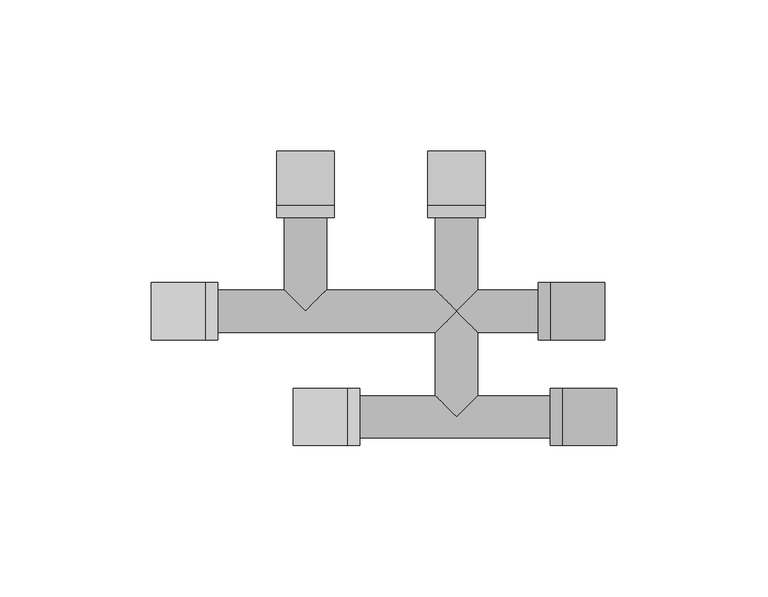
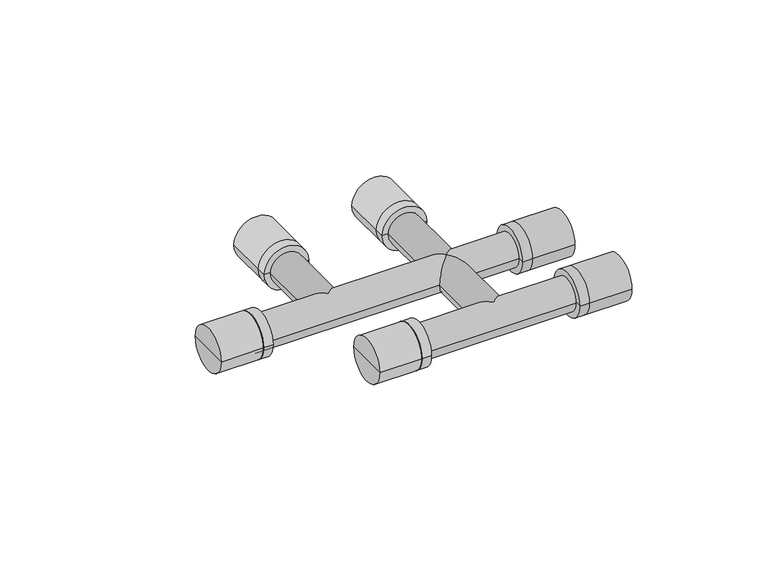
"""IFC4 building model written with IfcOpenShell, lengths in millimetres: pipe fitting geometry, KAN-therm Push trójnik mijankowy : KAN-therm Push trójnik mijankowy."""

from ifc_helpers import new_model, si_unit, frame, origin, place, context, project, spatial, circle_curve, ellipse_curve, source, transform, mapped, element, save
from ifc_brep_helpers import plane_surface, cylinder_surface, advanced_brep


def pipe_fitting_d9613d3d(model_context):
    return source(origin(), model_context, "Body", "AdvancedBrep", [
        advanced_brep(
        [(-83.0, 44.5, 0.0), (-83.0, 25.5, 0.0), (-83.0, 35.0, 0.0), (-79.0, 44.5, 0.0), (-79.0, 25.5, 0.0), (-79.0, 35.0, 0.0)],
        [
            (0, 1, circle_curve(frame((-83.0, 35.0, 0.0), z_axis=(-1.0, 0.0, 0.0), x_axis=(0.0, -1.0, 0.0)), 9.5)),
            (1, 2),
            (2, 0),
            (1, 0, circle_curve(frame((-83.0, 35.0, 0.0), z_axis=(-1.0, 0.0, 0.0), x_axis=(0.0, -1.0, 0.0)), 9.5)),
            (3, 4, circle_curve(frame((-79.0, 35.0, 0.0), z_axis=(-1.0, 0.0, 0.0), x_axis=(0.0, -1.0, 0.0)), 9.5)),
            (4, 1),
            (0, 3),
            (4, 3, circle_curve(frame((-79.0, 35.0, 0.0), z_axis=(-1.0, 0.0, 0.0), x_axis=(0.0, -1.0, 0.0)), 9.5)),
            (5, 4),
            (3, 5),
        ],
        [
            plane_surface(frame((-83.0, 35.0, 0.0), z_axis=(-1.0, 0.0, 0.0), x_axis=(0.0, -1.0, 0.0))),
            cylinder_surface(frame((-2078.0, 35.0, 0.0), z_axis=(1.0, 0.0, 0.0), x_axis=(0.0, -1.0, 0.0)), 9.5),
            plane_surface(frame((-79.0, 35.0, 0.0), z_axis=(1.0, 0.0, 0.0), x_axis=(0.0, -1.0, 0.0))),
        ],
        [
            (0, [[1, 2, 3]]),
            (0, [[4, -3, -2]]),
            (1, [[5, 6, -1, 7]]),
            (1, [[8, -7, -4, -6]]),
            (2, [[9, -5, 10]]),
            (2, [[-10, -8, -9]]),
        ],
    ),
        advanced_brep(
        [(-101.0, 44.5, 0.0), (-101.0, 25.5, 0.0), (-101.0, 35.0, 0.0), (-83.0, 44.5, 0.0), (-83.0, 25.5, 0.0), (-83.0, 35.0, 0.0)],
        [
            (0, 1, circle_curve(frame((-101.0, 35.0, 0.0), z_axis=(-1.0, 0.0, 0.0), x_axis=(0.0, -1.0, 0.0)), 9.5)),
            (1, 2),
            (2, 0),
            (1, 0, circle_curve(frame((-101.0, 35.0, 0.0), z_axis=(-1.0, 0.0, 0.0), x_axis=(0.0, -1.0, 0.0)), 9.5)),
            (3, 4, circle_curve(frame((-83.0, 35.0, 0.0), z_axis=(-1.0, 0.0, 0.0), x_axis=(0.0, -1.0, 0.0)), 9.5)),
            (4, 1),
            (0, 3),
            (4, 3, circle_curve(frame((-83.0, 35.0, 0.0), z_axis=(-1.0, 0.0, 0.0), x_axis=(0.0, -1.0, 0.0)), 9.5)),
            (5, 4),
            (3, 5),
        ],
        [
            plane_surface(frame((-101.0, 35.0, 0.0), z_axis=(-1.0, 0.0, 0.0), x_axis=(0.0, -1.0, 0.0))),
            cylinder_surface(frame((-2078.0, 35.0, 0.0), z_axis=(1.0, 0.0, 0.0), x_axis=(0.0, -1.0, 0.0)), 9.5),
            plane_surface(frame((-83.0, 35.0, 0.0), z_axis=(1.0, 0.0, 0.0), x_axis=(0.0, -1.0, 0.0))),
        ],
        [
            (0, [[1, 2, 3]]),
            (0, [[4, -3, -2]]),
            (1, [[5, 6, -1, 7]]),
            (1, [[8, -7, -4, -6]]),
            (2, [[9, -5, 10]]),
            (2, [[-10, -8, -9]]),
        ],
    ),
        advanced_brep(
        [(9.5, 70.0, 0.0), (-9.5, 70.0, 0.0), (0.0, 70.0, 0.0), (9.5, 66.0, 0.0), (-9.5, 66.0, 0.0), (0.0, 66.0, 0.0)],
        [
            (0, 1, circle_curve(frame((0.0, 70.0, 0.0), z_axis=(0.0, 1.0, 0.0), x_axis=(-1.0000000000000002, 0.0, 0.0)), 9.5)),
            (1, 2),
            (2, 0),
            (1, 0, circle_curve(frame((0.0, 70.0, 0.0), z_axis=(0.0, 1.0, 0.0), x_axis=(-1.0000000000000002, 0.0, 0.0)), 9.5)),
            (3, 4, circle_curve(frame((0.0, 66.0, 0.0), z_axis=(0.0, 1.0, 0.0), x_axis=(-1.0000000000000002, 0.0, 0.0)), 9.5)),
            (4, 1),
            (0, 3),
            (4, 3, circle_curve(frame((0.0, 66.0, 0.0), z_axis=(0.0, 1.0, 0.0), x_axis=(-1.0000000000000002, 0.0, 0.0)), 9.5)),
            (5, 4),
            (3, 5),
        ],
        [
            plane_surface(frame((0.0, 70.0, 0.0), z_axis=(0.0, 1.0, 0.0), x_axis=(-1.0, 0.0, 0.0))),
            cylinder_surface(frame((0.0, 2065.0, 0.0), z_axis=(0.0, -1.0000000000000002, 0.0), x_axis=(-1.0000000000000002, 0.0, 0.0)), 9.5),
            plane_surface(frame((0.0, 66.0, 0.0), z_axis=(0.0, -1.0, 0.0), x_axis=(-1.0, 0.0, 0.0))),
        ],
        [
            (0, [[1, 2, 3]]),
            (0, [[4, -3, -2]]),
            (1, [[5, 6, -1, 7]]),
            (1, [[8, -7, -4, -6]]),
            (2, [[9, -5, 10]]),
            (2, [[-10, -8, -9]]),
        ],
    ),
        advanced_brep(
        [(9.5, 88.0, 0.0), (-9.5, 88.0, 0.0), (0.0, 88.0, 0.0), (9.5, 70.0, 0.0), (-9.5, 70.0, 0.0), (0.0, 70.0, 0.0)],
        [
            (0, 1, circle_curve(frame((0.0, 88.0, 0.0), z_axis=(0.0, 1.0, 0.0), x_axis=(-1.0000000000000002, 0.0, 0.0)), 9.5)),
            (1, 2),
            (2, 0),
            (1, 0, circle_curve(frame((0.0, 88.0, 0.0), z_axis=(0.0, 1.0, 0.0), x_axis=(-1.0000000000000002, 0.0, 0.0)), 9.5)),
            (3, 4, circle_curve(frame((0.0, 70.0, 0.0), z_axis=(0.0, 1.0, 0.0), x_axis=(-1.0000000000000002, 0.0, 0.0)), 9.5)),
            (4, 1),
            (0, 3),
            (4, 3, circle_curve(frame((0.0, 70.0, 0.0), z_axis=(0.0, 1.0, 0.0), x_axis=(-1.0000000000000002, 0.0, 0.0)), 9.5)),
            (5, 4),
            (3, 5),
        ],
        [
            plane_surface(frame((0.0, 88.0, 0.0), z_axis=(0.0, 1.0, 0.0), x_axis=(-1.0, 0.0, 0.0))),
            cylinder_surface(frame((0.0, 2065.0, 0.0), z_axis=(0.0, -1.0000000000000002, 0.0), x_axis=(-1.0000000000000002, 0.0, 0.0)), 9.5),
            plane_surface(frame((0.0, 70.0, 0.0), z_axis=(0.0, -1.0, 0.0), x_axis=(-1.0, 0.0, 0.0))),
        ],
        [
            (0, [[1, 2, 3]]),
            (0, [[4, -3, -2]]),
            (1, [[5, 6, -1, 7]]),
            (1, [[8, -7, -4, -6]]),
            (2, [[9, -5, 10]]),
            (2, [[-10, -8, -9]]),
        ],
    ),
        advanced_brep(
        [(31.0, 25.5, 0.0), (31.0, 44.5, 0.0), (31.0, 35.0, 0.0), (27.0, 25.5, 0.0), (27.0, 44.5, 0.0), (27.0, 35.0, 0.0)],
        [
            (0, 1, circle_curve(frame((31.0, 35.0, 0.0), z_axis=(1.0, 0.0, 0.0), x_axis=(0.0, 1.0, 0.0)), 9.5)),
            (1, 2),
            (2, 0),
            (1, 0, circle_curve(frame((31.0, 35.0, 0.0), z_axis=(1.0, 0.0, 0.0), x_axis=(0.0, 1.0, 0.0)), 9.5)),
            (3, 4, circle_curve(frame((27.0, 35.0, 0.0), z_axis=(1.0, 0.0, 0.0), x_axis=(0.0, 1.0, 0.0)), 9.5)),
            (4, 1),
            (0, 3),
            (4, 3, circle_curve(frame((27.0, 35.0, 0.0), z_axis=(1.0, 0.0, 0.0), x_axis=(0.0, 1.0, 0.0)), 9.5)),
            (5, 4),
            (3, 5),
        ],
        [
            plane_surface(frame((31.0, 35.0, 0.0), z_axis=(1.0, 0.0, 0.0), x_axis=(0.0, 1.0, 0.0))),
            cylinder_surface(frame((2026.0, 35.0, 0.0), z_axis=(-1.0, 0.0, 0.0), x_axis=(0.0, 1.0, 0.0)), 9.5),
            plane_surface(frame((27.0, 35.0, 0.0), z_axis=(-1.0, 0.0, 0.0), x_axis=(0.0, 1.0, 0.0))),
        ],
        [
            (0, [[1, 2, 3]]),
            (0, [[4, -3, -2]]),
            (1, [[5, 6, -1, 7]]),
            (1, [[8, -7, -4, -6]]),
            (2, [[9, -5, 10]]),
            (2, [[-10, -8, -9]]),
        ],
    ),
        advanced_brep(
        [(49.0, 25.5, 0.0), (49.0, 44.5, 0.0), (49.0, 35.0, 0.0), (31.0, 25.5, 0.0), (31.0, 44.5, 0.0), (31.0, 35.0, 0.0)],
        [
            (0, 1, circle_curve(frame((49.0, 35.0, 0.0), z_axis=(1.0, 0.0, 0.0), x_axis=(0.0, 1.0, 0.0)), 9.5)),
            (1, 2),
            (2, 0),
            (1, 0, circle_curve(frame((49.0, 35.0, 0.0), z_axis=(1.0, 0.0, 0.0), x_axis=(0.0, 1.0, 0.0)), 9.5)),
            (3, 4, circle_curve(frame((31.0, 35.0, 0.0), z_axis=(1.0, 0.0, 0.0), x_axis=(0.0, 1.0, 0.0)), 9.5)),
            (4, 1),
            (0, 3),
            (4, 3, circle_curve(frame((31.0, 35.0, 0.0), z_axis=(1.0, 0.0, 0.0), x_axis=(0.0, 1.0, 0.0)), 9.5)),
            (5, 4),
            (3, 5),
        ],
        [
            plane_surface(frame((49.0, 35.0, 0.0), z_axis=(1.0, 0.0, 0.0), x_axis=(0.0, 1.0, 0.0))),
            cylinder_surface(frame((2026.0, 35.0, 0.0), z_axis=(-1.0, 0.0, 0.0), x_axis=(0.0, 1.0, 0.0)), 9.5),
            plane_surface(frame((31.0, 35.0, 0.0), z_axis=(-1.0, 0.0, 0.0), x_axis=(0.0, 1.0, 0.0))),
        ],
        [
            (0, [[1, 2, 3]]),
            (0, [[4, -3, -2]]),
            (1, [[5, 6, -1, 7]]),
            (1, [[8, -7, -4, -6]]),
            (2, [[9, -5, 10]]),
            (2, [[-10, -8, -9]]),
        ],
    ),
        advanced_brep(
        [(-40.5, 70.0, 0.0), (-59.5, 70.0, 0.0), (-50.0, 70.0, 0.0), (-40.5, 66.0, 0.0), (-59.5, 66.0, 0.0), (-50.0, 66.0, 0.0)],
        [
            (0, 1, circle_curve(frame((-50.0, 70.0, 0.0), z_axis=(0.0, 1.0, 0.0), x_axis=(-1.0000000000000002, 0.0, 0.0)), 9.5)),
            (1, 2),
            (2, 0),
            (1, 0, circle_curve(frame((-50.0, 70.0, 0.0), z_axis=(0.0, 1.0, 0.0), x_axis=(-1.0000000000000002, 0.0, 0.0)), 9.5)),
            (3, 4, circle_curve(frame((-50.0, 66.0, 0.0), z_axis=(0.0, 1.0, 0.0), x_axis=(-1.0000000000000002, 0.0, 0.0)), 9.5)),
            (4, 1),
            (0, 3),
            (4, 3, circle_curve(frame((-50.0, 66.0, 0.0), z_axis=(0.0, 1.0, 0.0), x_axis=(-1.0000000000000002, 0.0, 0.0)), 9.5)),
            (5, 4),
            (3, 5),
        ],
        [
            plane_surface(frame((-50.0, 70.0, 0.0), z_axis=(0.0, 1.0, 0.0), x_axis=(-1.0, 0.0, 0.0))),
            cylinder_surface(frame((-50.0, 2065.0, 0.0), z_axis=(0.0, -1.0000000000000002, 0.0), x_axis=(-1.0000000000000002, 0.0, 0.0)), 9.5),
            plane_surface(frame((-50.0, 66.0, 0.0), z_axis=(0.0, -1.0, 0.0), x_axis=(-1.0, 0.0, 0.0))),
        ],
        [
            (0, [[1, 2, 3]]),
            (0, [[4, -3, -2]]),
            (1, [[5, 6, -1, 7]]),
            (1, [[8, -7, -4, -6]]),
            (2, [[9, -5, 10]]),
            (2, [[-10, -8, -9]]),
        ],
    ),
        advanced_brep(
        [(-40.5, 88.0, 0.0), (-59.5, 88.0, 0.0), (-50.0, 88.0, 0.0), (-40.5, 70.0, 0.0), (-59.5, 70.0, 0.0), (-50.0, 70.0, 0.0)],
        [
            (0, 1, circle_curve(frame((-50.0, 88.0, 0.0), z_axis=(0.0, 1.0, 0.0), x_axis=(-1.0000000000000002, 0.0, 0.0)), 9.5)),
            (1, 2),
            (2, 0),
            (1, 0, circle_curve(frame((-50.0, 88.0, 0.0), z_axis=(0.0, 1.0, 0.0), x_axis=(-1.0000000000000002, 0.0, 0.0)), 9.5)),
            (3, 4, circle_curve(frame((-50.0, 70.0, 0.0), z_axis=(0.0, 1.0, 0.0), x_axis=(-1.0000000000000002, 0.0, 0.0)), 9.5)),
            (4, 1),
            (0, 3),
            (4, 3, circle_curve(frame((-50.0, 70.0, 0.0), z_axis=(0.0, 1.0, 0.0), x_axis=(-1.0000000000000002, 0.0, 0.0)), 9.5)),
            (5, 4),
            (3, 5),
        ],
        [
            plane_surface(frame((-50.0, 88.0, 0.0), z_axis=(0.0, 1.0, 0.0), x_axis=(-1.0, 0.0, 0.0))),
            cylinder_surface(frame((-50.0, 2065.0, 0.0), z_axis=(0.0, -1.0000000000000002, 0.0), x_axis=(-1.0000000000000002, 0.0, 0.0)), 9.5),
            plane_surface(frame((-50.0, 70.0, 0.0), z_axis=(0.0, -1.0, 0.0), x_axis=(-1.0, 0.0, 0.0))),
        ],
        [
            (0, [[1, 2, 3]]),
            (0, [[4, -3, -2]]),
            (1, [[5, 6, -1, 7]]),
            (1, [[8, -7, -4, -6]]),
            (2, [[9, -5, 10]]),
            (2, [[-10, -8, -9]]),
        ],
    ),
        advanced_brep(
        [(-36.0, 9.5, 0.0), (-36.0, -9.5, 0.0), (-36.0, 0.0, 0.0), (-32.0, 9.5, 0.0), (-32.0, -9.5, 0.0), (-32.0, 0.0, 0.0)],
        [
            (0, 1, circle_curve(frame((-36.0, 0.0, 0.0), z_axis=(-1.0, 0.0, 0.0), x_axis=(0.0, -1.0, 0.0)), 9.5)),
            (1, 2),
            (2, 0),
            (1, 0, circle_curve(frame((-36.0, 0.0, 0.0), z_axis=(-1.0, 0.0, 0.0), x_axis=(0.0, -1.0, 0.0)), 9.5)),
            (3, 4, circle_curve(frame((-32.0, 0.0, 0.0), z_axis=(-1.0, 0.0, 0.0), x_axis=(0.0, -1.0, 0.0)), 9.5)),
            (4, 1),
            (0, 3),
            (4, 3, circle_curve(frame((-32.0, 0.0, 0.0), z_axis=(-1.0, 0.0, 0.0), x_axis=(0.0, -1.0, 0.0)), 9.5)),
            (5, 4),
            (3, 5),
        ],
        [
            plane_surface(frame((-36.0, 0.0, 0.0), z_axis=(-1.0, 0.0, 0.0), x_axis=(0.0, -1.0, 0.0))),
            cylinder_surface(frame((-2031.0, 0.0, 0.0), z_axis=(1.0, 0.0, 0.0), x_axis=(0.0, -1.0, 0.0)), 9.5),
            plane_surface(frame((-32.0, 0.0, 0.0), z_axis=(1.0, 0.0, 0.0), x_axis=(0.0, -1.0, 0.0))),
        ],
        [
            (0, [[1, 2, 3]]),
            (0, [[4, -3, -2]]),
            (1, [[5, 6, -1, 7]]),
            (1, [[8, -7, -4, -6]]),
            (2, [[9, -5, 10]]),
            (2, [[-10, -8, -9]]),
        ],
    ),
        advanced_brep(
        [(-54.0, 9.5, 0.0), (-54.0, -9.5, 0.0), (-54.0, 0.0, 0.0), (-36.0, 9.5, 0.0), (-36.0, -9.5, 0.0), (-36.0, 0.0, 0.0)],
        [
            (0, 1, circle_curve(frame((-54.0, 0.0, 0.0), z_axis=(-1.0, 0.0, 0.0), x_axis=(0.0, -1.0, 0.0)), 9.5)),
            (1, 2),
            (2, 0),
            (1, 0, circle_curve(frame((-54.0, 0.0, 0.0), z_axis=(-1.0, 0.0, 0.0), x_axis=(0.0, -1.0, 0.0)), 9.5)),
            (3, 4, circle_curve(frame((-36.0, 0.0, 0.0), z_axis=(-1.0, 0.0, 0.0), x_axis=(0.0, -1.0, 0.0)), 9.5)),
            (4, 1),
            (0, 3),
            (4, 3, circle_curve(frame((-36.0, 0.0, 0.0), z_axis=(-1.0, 0.0, 0.0), x_axis=(0.0, -1.0, 0.0)), 9.5)),
            (5, 4),
            (3, 5),
        ],
        [
            plane_surface(frame((-54.0, 0.0, 0.0), z_axis=(-1.0, 0.0, 0.0), x_axis=(0.0, -1.0, 0.0))),
            cylinder_surface(frame((-2031.0, 0.0, 0.0), z_axis=(1.0, 0.0, 0.0), x_axis=(0.0, -1.0, 0.0)), 9.5),
            plane_surface(frame((-36.0, 0.0, 0.0), z_axis=(1.0, 0.0, 0.0), x_axis=(0.0, -1.0, 0.0))),
        ],
        [
            (0, [[1, 2, 3]]),
            (0, [[4, -3, -2]]),
            (1, [[5, 6, -1, 7]]),
            (1, [[8, -7, -4, -6]]),
            (2, [[9, -5, 10]]),
            (2, [[-10, -8, -9]]),
        ],
    ),
        advanced_brep(
        [(35.0, -9.5, 0.0), (35.0, 9.5, 0.0), (35.0, 0.0, 0.0), (31.0, -9.5, 0.0), (31.0, 9.5, 0.0), (31.0, 0.0, 0.0)],
        [
            (0, 1, circle_curve(frame((35.0, 0.0, 0.0), z_axis=(1.0, 0.0, 0.0), x_axis=(0.0, 1.0, 0.0)), 9.5)),
            (1, 2),
            (2, 0),
            (1, 0, circle_curve(frame((35.0, 0.0, 0.0), z_axis=(1.0, 0.0, 0.0), x_axis=(0.0, 1.0, 0.0)), 9.5)),
            (3, 4, circle_curve(frame((31.0, 0.0, 0.0), z_axis=(1.0, 0.0, 0.0), x_axis=(0.0, 1.0, 0.0)), 9.5)),
            (4, 1),
            (0, 3),
            (4, 3, circle_curve(frame((31.0, 0.0, 0.0), z_axis=(1.0, 0.0, 0.0), x_axis=(0.0, 1.0, 0.0)), 9.5)),
            (5, 4),
            (3, 5),
        ],
        [
            plane_surface(frame((35.0, 0.0, 0.0), z_axis=(1.0, 0.0, 0.0), x_axis=(0.0, 1.0, 0.0))),
            cylinder_surface(frame((2030.0, 0.0, 0.0), z_axis=(-1.0, 0.0, 0.0), x_axis=(0.0, 1.0, 0.0)), 9.5),
            plane_surface(frame((31.0, 0.0, 0.0), z_axis=(-1.0, 0.0, 0.0), x_axis=(0.0, 1.0, 0.0))),
        ],
        [
            (0, [[1, 2, 3]]),
            (0, [[4, -3, -2]]),
            (1, [[5, 6, -1, 7]]),
            (1, [[8, -7, -4, -6]]),
            (2, [[9, -5, 10]]),
            (2, [[-10, -8, -9]]),
        ],
    ),
        advanced_brep(
        [(53.0, -9.5, 0.0), (53.0, 9.5, 0.0), (53.0, 0.0, 0.0), (35.0, -9.5, 0.0), (35.0, 9.5, 0.0), (35.0, 0.0, 0.0)],
        [
            (0, 1, circle_curve(frame((53.0, 0.0, 0.0), z_axis=(1.0, 0.0, 0.0), x_axis=(0.0, 1.0, 0.0)), 9.5)),
            (1, 2),
            (2, 0),
            (1, 0, circle_curve(frame((53.0, 0.0, 0.0), z_axis=(1.0, 0.0, 0.0), x_axis=(0.0, 1.0, 0.0)), 9.5)),
            (3, 4, circle_curve(frame((35.0, 0.0, 0.0), z_axis=(1.0, 0.0, 0.0), x_axis=(0.0, 1.0, 0.0)), 9.5)),
            (4, 1),
            (0, 3),
            (4, 3, circle_curve(frame((35.0, 0.0, 0.0), z_axis=(1.0, 0.0, 0.0), x_axis=(0.0, 1.0, 0.0)), 9.5)),
            (5, 4),
            (3, 5),
        ],
        [
            plane_surface(frame((53.0, 0.0, 0.0), z_axis=(1.0, 0.0, 0.0), x_axis=(0.0, 1.0, 0.0))),
            cylinder_surface(frame((2030.0, 0.0, 0.0), z_axis=(-1.0, 0.0, 0.0), x_axis=(0.0, 1.0, 0.0)), 9.5),
            plane_surface(frame((35.0, 0.0, 0.0), z_axis=(-1.0, 0.0, 0.0), x_axis=(0.0, 1.0, 0.0))),
        ],
        [
            (0, [[1, 2, 3]]),
            (0, [[4, -3, -2]]),
            (1, [[5, 6, -1, 7]]),
            (1, [[8, -7, -4, -6]]),
            (2, [[9, -5, 10]]),
            (2, [[-10, -8, -9]]),
        ],
    ),
        advanced_brep(
        [(35.0, 28.0, 0.0), (35.0, 42.0, 0.0), (35.0, 35.0, 0.0), (7.0, 28.0, 0.0), (0.0, 35.0, -7.0), (7.0, 42.0, 0.0), (-83.0, 28.0, 0.0), (-83.0, 42.0, 0.0), (-57.0, 42.0, 0.0), (-50.0, 35.0, -7.0), (-43.0, 42.0, 0.0), (-7.0, 42.0, 0.0), (-7.0, 28.0, 0.0), (0.0, 35.0, 7.0), (-50.0, 35.0, 7.0), (-83.0, 35.0, 0.0), (-57.0, 70.0, 0.0), (-43.0, 70.0, 0.0), (-50.0, 70.0, 0.0), (35.0, -7.0, 0.0), (35.0, 7.0, 0.0), (35.0, 0.0, 0.0), (-36.0, -7.0, 0.0), (-36.0, 7.0, 0.0), (-7.0, 7.0, 0.0), (0.0, 0.0, -7.0), (7.0, 7.0, 0.0), (0.0, 0.0, 7.0), (-36.0, 0.0, 0.0), (-7.0, 70.0, 0.0), (7.0, 70.0, 0.0), (0.0, 70.0, 0.0)],
        [
            (0, 1, circle_curve(frame((35.0, 35.0, 0.0), z_axis=(1.0, 0.0, 0.0), x_axis=(0.0, 1.0, 0.0)), 7.0)),
            (1, 2),
            (2, 0),
            (1, 0, circle_curve(frame((35.0, 35.0, 0.0), z_axis=(1.0, 0.0, 0.0), x_axis=(0.0, 1.0, 0.0)), 7.0)),
            (0, 3),
            (3, 4, ellipse_curve(frame((0.0, 35.0, 0.0), z_axis=(0.7071067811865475, 0.7071067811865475, 0.0), x_axis=(-0.7071067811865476, 0.7071067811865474, 0.0)), 9.8994949, 7.0)),
            (4, 5, ellipse_curve(frame((0.0, 35.0, 0.0), z_axis=(0.7071067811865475, -0.7071067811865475, 0.0), x_axis=(-0.7071067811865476, -0.7071067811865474, 0.0)), 9.8994949, 7.0)),
            (5, 1),
            (6, 7, circle_curve(frame((-83.0, 35.0, 0.0), z_axis=(1.0, 0.0, 0.0), x_axis=(0.0, 1.0, 0.0)), 7.0)),
            (7, 8),
            (8, 9, ellipse_curve(frame((-50.0, 35.0, 0.0), z_axis=(-0.7071067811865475, -0.7071067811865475, 0.0), x_axis=(-0.7071067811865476, 0.7071067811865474, 0.0)), 9.8994949, 7.0)),
            (9, 10, ellipse_curve(frame((-50.0, 35.0, 0.0), z_axis=(0.7071067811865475, -0.7071067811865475, 0.0), x_axis=(-0.7071067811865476, -0.7071067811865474, 0.0)), 9.8994949, 7.0)),
            (10, 11),
            (11, 4, ellipse_curve(frame((0.0, 35.0, 0.0), z_axis=(-0.7071067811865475, -0.7071067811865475, 0.0), x_axis=(-0.7071067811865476, 0.7071067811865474, 0.0)), 9.8994949, 7.0)),
            (4, 12, ellipse_curve(frame((0.0, 35.0, 0.0), z_axis=(-0.7071067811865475, 0.7071067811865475, 0.0), x_axis=(-0.7071067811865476, -0.7071067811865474, 0.0)), 9.8994949, 7.0)),
            (12, 6),
            (5, 13, ellipse_curve(frame((0.0, 35.0, 0.0), z_axis=(0.7071067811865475, -0.7071067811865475, 0.0), x_axis=(-0.7071067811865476, -0.7071067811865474, 0.0)), 9.8994949, 7.0)),
            (13, 3, ellipse_curve(frame((0.0, 35.0, 0.0), z_axis=(0.7071067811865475, 0.7071067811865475, 0.0), x_axis=(-0.7071067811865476, 0.7071067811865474, 0.0)), 9.8994949, 7.0)),
            (7, 6, circle_curve(frame((-83.0, 35.0, 0.0), z_axis=(1.0, 0.0, 0.0), x_axis=(0.0, 1.0, 0.0)), 7.0)),
            (12, 13, ellipse_curve(frame((0.0, 35.0, 0.0), z_axis=(-0.7071067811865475, 0.7071067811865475, 0.0), x_axis=(-0.7071067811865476, -0.7071067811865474, 0.0)), 9.8994949, 7.0)),
            (13, 11, ellipse_curve(frame((0.0, 35.0, 0.0), z_axis=(-0.7071067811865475, -0.7071067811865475, 0.0), x_axis=(-0.7071067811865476, 0.7071067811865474, 0.0)), 9.8994949, 7.0)),
            (10, 14, ellipse_curve(frame((-50.0, 35.0, 0.0), z_axis=(0.7071067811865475, -0.7071067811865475, 0.0), x_axis=(-0.7071067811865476, -0.7071067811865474, 0.0)), 9.8994949, 7.0)),
            (14, 8, ellipse_curve(frame((-50.0, 35.0, 0.0), z_axis=(-0.7071067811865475, -0.7071067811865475, 0.0), x_axis=(-0.7071067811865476, 0.7071067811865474, 0.0)), 9.8994949, 7.0)),
            (6, 15),
            (15, 7),
            (16, 17, circle_curve(frame((-50.0, 70.0, 0.0), z_axis=(0.0, -1.0, 0.0), x_axis=(1.0, 0.0, 0.0)), 7.0)),
            (17, 10),
            (8, 16),
            (17, 16, circle_curve(frame((-50.0, 70.0, 0.0), z_axis=(0.0, -1.0, 0.0), x_axis=(1.0, 0.0, 0.0)), 7.0)),
            (16, 18),
            (18, 17),
            (19, 20, circle_curve(frame((35.0, 0.0, 0.0), z_axis=(1.0, 0.0, 0.0), x_axis=(0.0, 1.0, 0.0)), 7.0)),
            (20, 21),
            (21, 19),
            (20, 19, circle_curve(frame((35.0, 0.0, 0.0), z_axis=(1.0, 0.0, 0.0), x_axis=(0.0, 1.0, 0.0)), 7.0)),
            (19, 22),
            (22, 23, circle_curve(frame((-36.0, 0.0, 0.0), z_axis=(1.0, 0.0, 0.0), x_axis=(0.0, 1.0, 0.0)), 7.0)),
            (23, 24),
            (24, 25, ellipse_curve(frame((0.0, 0.0, 0.0), z_axis=(-0.7071067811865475, -0.7071067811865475, 0.0), x_axis=(-0.7071067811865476, 0.7071067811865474, 0.0)), 9.8994949, 7.0)),
            (25, 26, ellipse_curve(frame((0.0, 0.0, 0.0), z_axis=(0.7071067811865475, -0.7071067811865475, 0.0), x_axis=(-0.7071067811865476, -0.7071067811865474, 0.0)), 9.8994949, 7.0)),
            (26, 20),
            (26, 27, ellipse_curve(frame((0.0, 0.0, 0.0), z_axis=(0.7071067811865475, -0.7071067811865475, 0.0), x_axis=(-0.7071067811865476, -0.7071067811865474, 0.0)), 9.8994949, 7.0)),
            (27, 24, ellipse_curve(frame((0.0, 0.0, 0.0), z_axis=(-0.7071067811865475, -0.7071067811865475, 0.0), x_axis=(-0.7071067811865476, 0.7071067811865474, 0.0)), 9.8994949, 7.0)),
            (23, 22, circle_curve(frame((-36.0, 0.0, 0.0), z_axis=(1.0, 0.0, 0.0), x_axis=(0.0, 1.0, 0.0)), 7.0)),
            (22, 28),
            (28, 23),
            (29, 30, circle_curve(frame((0.0, 70.0, 0.0), z_axis=(0.0, -1.0, 0.0), x_axis=(1.0, 0.0, 0.0)), 7.0)),
            (30, 5),
            (11, 29),
            (3, 26),
            (24, 12),
            (30, 29, circle_curve(frame((0.0, 70.0, 0.0), z_axis=(0.0, -1.0, 0.0), x_axis=(1.0, 0.0, 0.0)), 7.0)),
            (29, 31),
            (31, 30),
        ],
        [
            plane_surface(frame((35.0, 35.0, 0.0), z_axis=(1.0, 0.0, 0.0), x_axis=(0.0, 1.0, 0.0))),
            cylinder_surface(frame((-190.9471411, 35.0, 0.0), z_axis=(-1.0, 0.0, 0.0), x_axis=(0.0, 1.0, 0.0)), 7.0),
            plane_surface(frame((-83.0, 35.0, 0.0), z_axis=(-1.0, 0.0, 0.0), x_axis=(0.0, 1.0, 0.0))),
            cylinder_surface(frame((-50.0, 140.7500603, 0.0), z_axis=(0.0, 1.0, 0.0), x_axis=(1.0, 0.0, 0.0)), 7.0),
            plane_surface(frame((-50.0, 70.0, 0.0), z_axis=(0.0, 1.0, 0.0), x_axis=(1.0, 0.0, 0.0))),
            plane_surface(frame((35.0, 0.0, 0.0), z_axis=(1.0, 0.0, 0.0), x_axis=(0.0, 1.0, 0.0))),
            cylinder_surface(frame((2019.5, 0.0, 0.0), z_axis=(-1.0, 0.0, 0.0), x_axis=(0.0, 1.0, 0.0)), 7.0),
            plane_surface(frame((-36.0, 0.0, 0.0), z_axis=(-1.0, 0.0, 0.0), x_axis=(0.0, 1.0, 0.0))),
            cylinder_surface(frame((0.0, 2017.0, 0.0), z_axis=(0.0, 1.0, 0.0), x_axis=(1.0, 0.0, 0.0)), 7.0),
            plane_surface(frame((0.0, 70.0, 0.0), z_axis=(0.0, 1.0, 0.0), x_axis=(1.0, 0.0, 0.0))),
        ],
        [
            (0, [[1, 2, 3]]),
            (0, [[-2, 4, -3]]),
            (1, [[-1, 5, 6, 7, 8]]),
            (1, [[9, 10, 11, 12, 13, 14, 15, 16]]),
            (1, [[-4, -8, 17, 18, -5]]),
            (1, [[19, -16, 20, 21, -13, 22, 23, -10]]),
            (2, [[-9, 24, 25]]),
            (2, [[-19, -25, -24]]),
            (3, [[26, 27, -12, -11, 28]]),
            (3, [[29, -28, -23, -22, -27]]),
            (4, [[-26, 30, 31]]),
            (4, [[-29, -31, -30]]),
            (5, [[32, 33, 34]]),
            (5, [[-33, 35, -34]]),
            (6, [[-32, 36, 37, 38, 39, 40, 41]]),
            (6, [[-35, -41, 42, 43, -38, 44, -36]]),
            (7, [[-37, 45, 46]]),
            (7, [[-44, -46, -45]]),
            (8, [[47, 48, -7, -14, 49]]),
            (8, [[50, -40, -39, 51, -15, -6]]),
            (8, [[-50, -18, -20, -51, -43, -42]]),
            (8, [[52, -49, -21, -17, -48]]),
            (9, [[-47, 53, 54]]),
            (9, [[-52, -54, -53]]),
        ],
    ),
    ])


if __name__ == "__main__":
    model = new_model("IFC4")
    model_context = context("Model", 3, world=origin())
    ifc_project = project(units=[si_unit("LENGTHUNIT", "METRE", prefix="MILLI")], contexts=[model_context])
    site = spatial("IfcSite", under=ifc_project)
    building = spatial("IfcBuilding", under=site)
    placement = place(None, origin())
    pipe_fitting_shape = pipe_fitting_d9613d3d(model_context)
    element("IfcPipeFitting", 1, ObjectType="KAN-therm Push trójnik mijankowy : KAN-therm Push trójnik mijankowy", at=placement, inside=building, context=model_context, shape_type="MappedRepresentation", body=[
        mapped(pipe_fitting_shape, transform((0.0, 0.0, 0.0), x_axis=(1.0, 0.0, 0.0), y_axis=(0.0, 1.0, 0.0), z_axis=(0.0, 0.0, 1.0))),
    ])
    save(model, "model.ifc")
